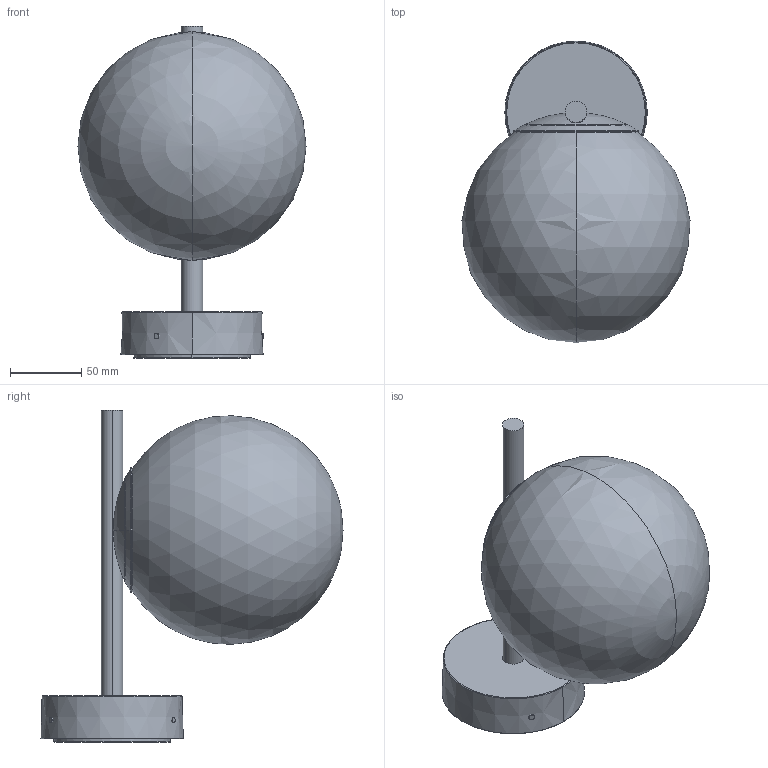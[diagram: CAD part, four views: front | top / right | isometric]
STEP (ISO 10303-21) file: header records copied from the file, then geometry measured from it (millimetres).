
FILE_DESCRIPTION((''),'2;1');
FILE_NAME('APPLIQUE_SW0001','2026-02-03T17:01:03',('Piccioli'),(''),'CREO PARAMETRIC BY PTC INC, 2025010','CREO PARAMETRIC BY PTC INC, 2025010','');
FILE_SCHEMA(('CONFIG_CONTROL_DESIGN'));
Length unit declared in the file: millimetre
Products named in the file (1): APPLIQUE_SW0001
Bounding box: 159.64 x 211.34 x 232.3 mm (x, y, z)
Surface area: 125233.7 mm2 (no closed solid volume)
Topology: 0 solids, 9 shells, 45 faces, 94 edges, 55 vertices
Faces by surface type: torus 16, cone 8, cylinder 8, plane 7, sphere 6
Entity records: 1412 total; most frequent: CARTESIAN_POINT 386, DIRECTION 254, ORIENTED_EDGE 164, AXIS2_PLACEMENT_3D 119, EDGE_CURVE 92, CIRCLE 74, VERTEX_POINT 55, EDGE_LOOP 45
